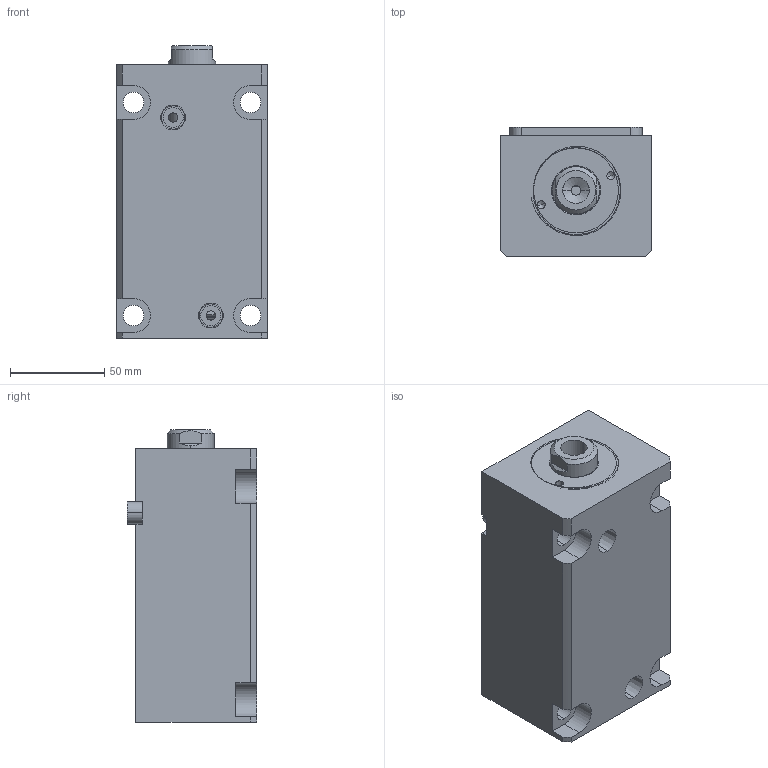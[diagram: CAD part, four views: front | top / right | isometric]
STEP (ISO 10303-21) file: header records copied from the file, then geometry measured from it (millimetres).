
FILE_DESCRIPTION (( 'STEP AP214' ), '1' );
FILE_NAME ('chtb-la40x90n_asm.STEP', '2018-05-31T01:56:12', ( 'Windows' ), ( 'Microsoft' ), 'SwSTEP 2.0', 'SolidWorks 2015', '' );
FILE_SCHEMA (( 'AUTOMOTIVE_DESIGN' ));
Length unit declared in the file: millimetre
Products named in the file (5): CHTB-LA40PJ; CHTB-SD40QG; CHTB-SD40X90NHSG; CHTB-LA40X90NBT; chtb-la40x90n_asm
Assembly tree (4 placements, depth 2):
  chtb-la40x90n_asm
    CHTB-LA40X90NBT
    CHTB-SD40X90NHSG
    CHTB-SD40QG
    CHTB-LA40PJ
Bounding box: 80 x 68.5 x 155 mm (x, y, z)
Volume: 633815.1 mm3; surface area: 109724.8 mm2
Topology: 4 solids, 4 shells, 160 faces, 430 edges, 286 vertices
Faces by surface type: cylinder 73, plane 48, bspline 14, cone 13, torus 12
Entity records: 10258 total; most frequent: CARTESIAN_POINT 6106, ORIENTED_EDGE 848, DIRECTION 787, EDGE_CURVE 424, AXIS2_PLACEMENT_3D 314, VERTEX_POINT 286, EDGE_LOOP 188, CIRCLE 161
